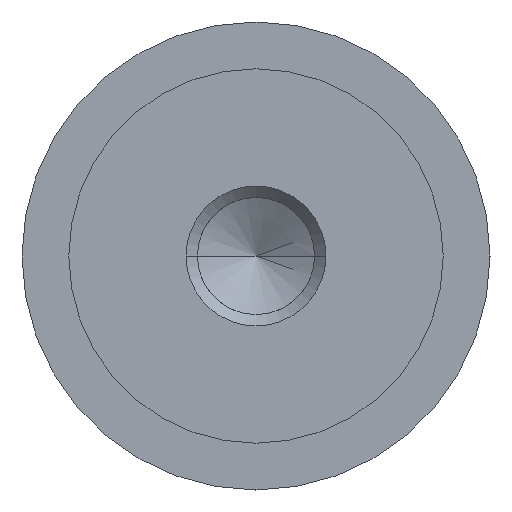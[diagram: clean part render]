
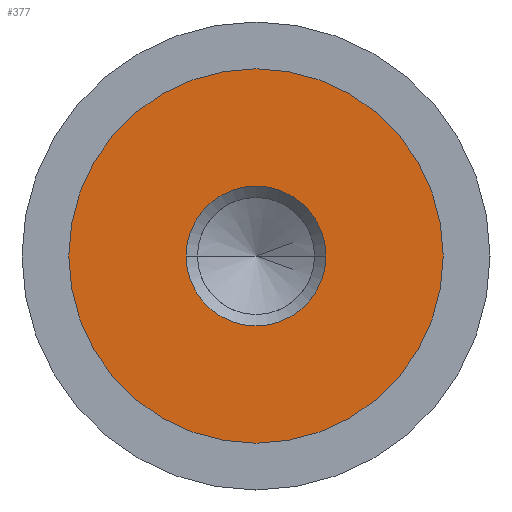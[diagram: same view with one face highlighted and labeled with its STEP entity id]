
A CAD part, left-side view. The second image highlights one B-rep face of the part: STEP entity #377.
In plain terms, the highlighted planar face has unit normal (-1, 0, 0).
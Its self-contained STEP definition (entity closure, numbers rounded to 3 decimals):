
#5 = ORIENTED_EDGE ( 'NONE', *, *, #590, .T. ) ;
#37 = AXIS2_PLACEMENT_3D ( 'NONE', #643, #174, #715 ) ;
#47 = CIRCLE ( 'NONE', #37, 8. ) ;
#83 = DIRECTION ( 'NONE',  ( 0., 0., -1. ) ) ;
#127 = AXIS2_PLACEMENT_3D ( 'NONE', #355, #607, #476 ) ;
#141 = CARTESIAN_POINT ( 'NONE',  ( -14.99, 0., 0. ) ) ;
#162 = DIRECTION ( 'NONE',  ( 1., 0., 0. ) ) ;
#173 = EDGE_LOOP ( 'NONE', ( #631, #379 ) ) ;
#174 = DIRECTION ( 'NONE',  ( -1., 0., 0. ) ) ;
#193 = VERTEX_POINT ( 'NONE', #489 ) ;
#233 = AXIS2_PLACEMENT_3D ( 'NONE', #583, #698, #591 ) ;
#234 = VERTEX_POINT ( 'NONE', #576 ) ;
#245 = VERTEX_POINT ( 'NONE', #510 ) ;
#279 = CARTESIAN_POINT ( 'NONE',  ( -14.99, 2.99, 0. ) ) ;
#303 = EDGE_LOOP ( 'NONE', ( #626, #5 ) ) ;
#338 = CIRCLE ( 'NONE', #448, 2.99 ) ;
#340 = FACE_BOUND ( 'NONE', #173, .T. ) ;
#355 = CARTESIAN_POINT ( 'NONE',  ( -14.99, 8., 0. ) ) ;
#360 = CARTESIAN_POINT ( 'NONE',  ( -14.99, 0., 0. ) ) ;
#377 = ADVANCED_FACE ( 'NONE', ( #340, #587 ), #392, .F. ) ;
#379 = ORIENTED_EDGE ( 'NONE', *, *, #595, .T. ) ;
#392 = PLANE ( 'NONE',  #127 ) ;
#448 = AXIS2_PLACEMENT_3D ( 'NONE', #360, #162, #605 ) ;
#451 = EDGE_CURVE ( 'NONE', #193, #245, #47, .T. ) ;
#476 = DIRECTION ( 'NONE',  ( 0., 0., -1. ) ) ;
#489 = CARTESIAN_POINT ( 'NONE',  ( -14.99, 0., 8. ) ) ;
#508 = CIRCLE ( 'NONE', #676, 2.99 ) ;
#510 = CARTESIAN_POINT ( 'NONE',  ( -14.99, 0., -8. ) ) ;
#576 = CARTESIAN_POINT ( 'NONE',  ( -14.99, -2.99, 0. ) ) ;
#579 = DIRECTION ( 'NONE',  ( 1., 0., 0. ) ) ;
#583 = CARTESIAN_POINT ( 'NONE',  ( -14.99, 0., 0. ) ) ;
#585 = CIRCLE ( 'NONE', #233, 8. ) ;
#587 = FACE_OUTER_BOUND ( 'NONE', #303, .T. ) ;
#590 = EDGE_CURVE ( 'NONE', #245, #193, #585, .T. ) ;
#591 = DIRECTION ( 'NONE',  ( 0., 0., 1. ) ) ;
#595 = EDGE_CURVE ( 'NONE', #622, #234, #508, .T. ) ;
#605 = DIRECTION ( 'NONE',  ( 0., 0., -1. ) ) ;
#607 = DIRECTION ( 'NONE',  ( 1., 0., 0. ) ) ;
#622 = VERTEX_POINT ( 'NONE', #279 ) ;
#626 = ORIENTED_EDGE ( 'NONE', *, *, #451, .T. ) ;
#631 = ORIENTED_EDGE ( 'NONE', *, *, #695, .T. ) ;
#643 = CARTESIAN_POINT ( 'NONE',  ( -14.99, 0., 0. ) ) ;
#676 = AXIS2_PLACEMENT_3D ( 'NONE', #141, #579, #83 ) ;
#695 = EDGE_CURVE ( 'NONE', #234, #622, #338, .T. ) ;
#698 = DIRECTION ( 'NONE',  ( -1., 0., 0. ) ) ;
#715 = DIRECTION ( 'NONE',  ( 0., 0., 1. ) ) ;
